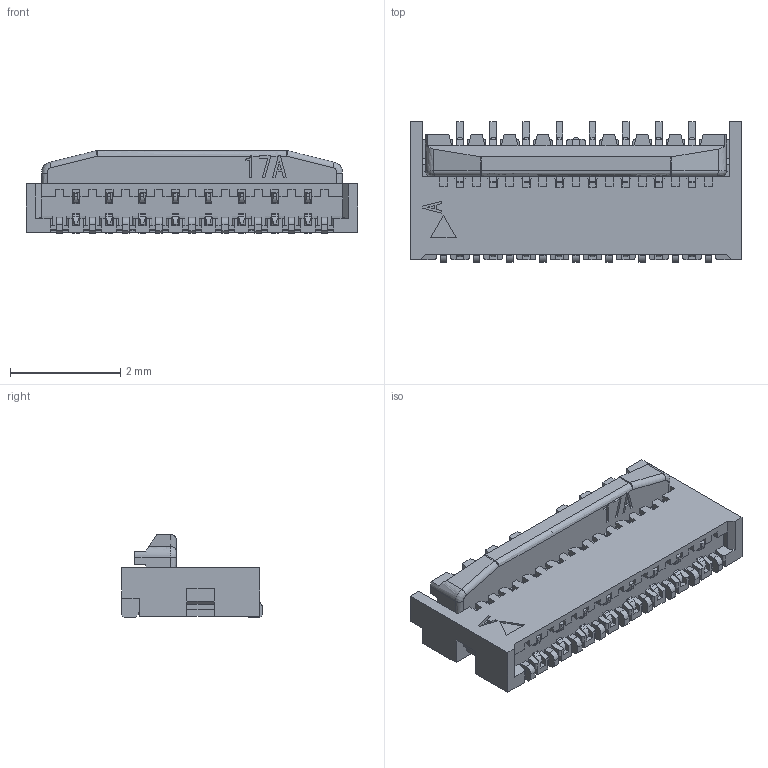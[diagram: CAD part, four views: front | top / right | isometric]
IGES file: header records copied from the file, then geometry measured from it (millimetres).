
Start section: SolidWorks IGES file using analytic representation for surfaces
Global section: file name: C:\Users\ieng2-006\Desktop\20527-017ExxxC ACT OPEN IGES R5 ALL.IGS; native system: SolidWorks 2014; preprocessor: SolidWorks 2014; author: ieng2-006; date: 170425.104211; units: millimetre
Bounding box: 6 x 2.55 x 1.5 mm (x, y, z)
Surface area: 82.2 mm2 (no closed solid volume)
Topology: 0 solids, 0 shells, 1626 faces, 10319 edges, 10317 vertices
Faces by surface type: bspline 1345, revolution 281
